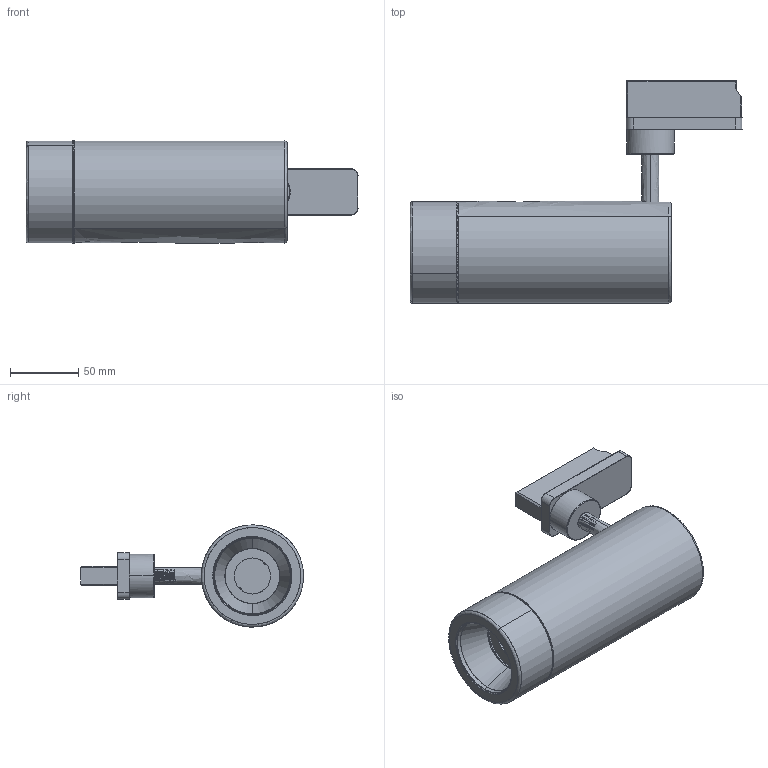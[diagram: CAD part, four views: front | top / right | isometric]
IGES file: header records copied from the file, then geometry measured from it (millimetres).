
Start section: SolidWorks IGES file using analytic representation for surfaces
Global section: file name: C:\Users\JoãoSantos\Desktop\02_3D.2D\01_2020\01_Spot On\03_Over\01_Over\01_Over\01_Medium\OVER TRACK.IGS; native system: SolidWorks 2020; preprocessor: SolidWorks 2020; author: JoãoSantos; date: 201020.095413; units: millimetre
Bounding box: 243.82 x 163.75 x 75 mm (x, y, z)
Surface area: 159808.8 mm2 (no closed solid volume)
Topology: 0 solids, 0 shells, 459 faces, 7301 edges, 7301 vertices
Faces by surface type: revolution 231, bspline 228
